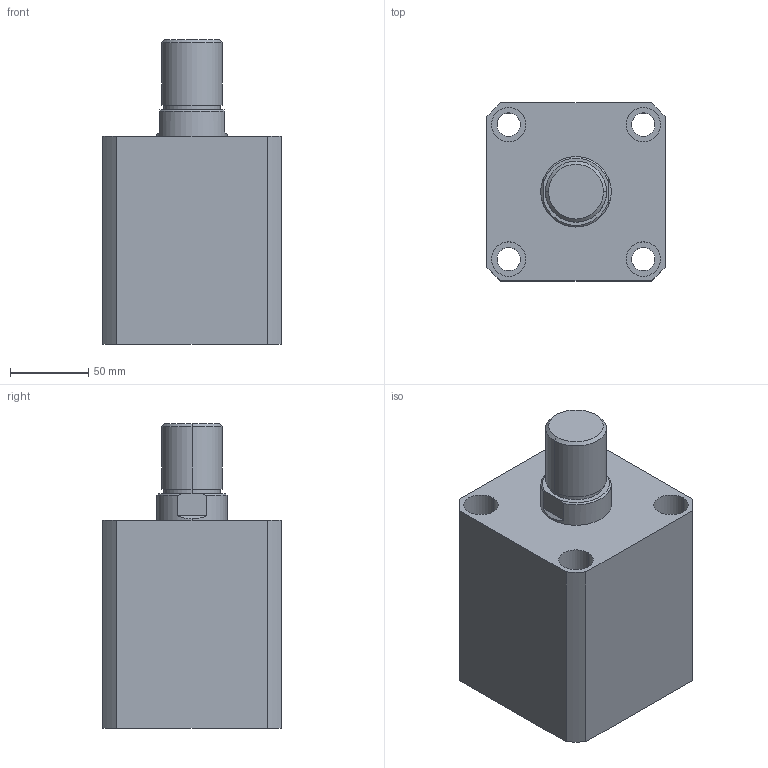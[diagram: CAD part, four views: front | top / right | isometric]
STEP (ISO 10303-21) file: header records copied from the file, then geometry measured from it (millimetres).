
FILE_DESCRIPTION (( 'STEP AP203' ), '1' );
FILE_NAME ('HTB-SDMB80-55W.STEP', '2019-10-09T06:07:08', ( '微软用户' ), ( '微软中国' ), 'SwSTEP 2.0', 'SolidWorks 2012', '' );
FILE_SCHEMA (( 'CONFIG_CONTROL_DESIGN' ));
Length unit declared in the file: millimetre
Products named in the file (3): HTB-SDMB80-55掛极; HTB-SDMB80-55W活塞杆; HTB-SDMB80-55W
Assembly tree (2 placements, depth 2):
  HTB-SDMB80-55W
    HTB-SDMB80-55掛极
    HTB-SDMB80-55W活塞杆
Bounding box: 114 x 114 x 195 mm (x, y, z)
Volume: 1478675.3 mm3; surface area: 181367.5 mm2
Topology: 2 solids, 2 shells, 141 faces, 337 edges, 222 vertices
Faces by surface type: plane 67, cylinder 48, bspline 16, torus 6, cone 4
Entity records: 5180 total; most frequent: CARTESIAN_POINT 1597, ORIENTED_EDGE 674, DIRECTION 669, EDGE_CURVE 337, AXIS2_PLACEMENT_3D 242, VERTEX_POINT 222, LINE 185, VECTOR 185
